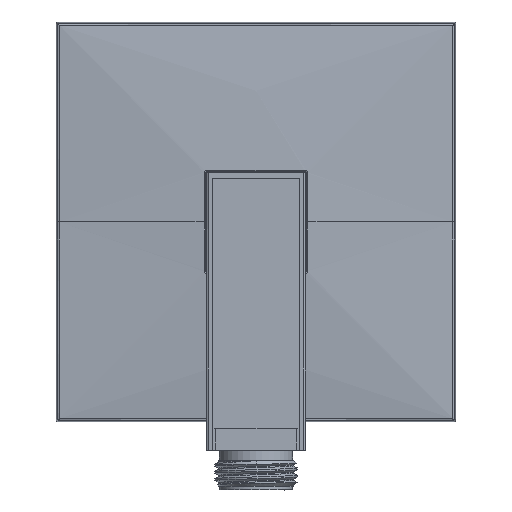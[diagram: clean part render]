
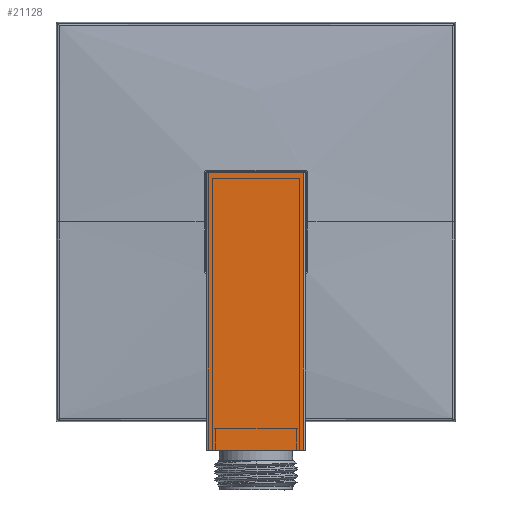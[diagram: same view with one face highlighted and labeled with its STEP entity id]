
A CAD part, front view. The second image highlights one B-rep face of the part: STEP entity #21128.
In plain terms, the highlighted planar face has unit normal (0, -1, 0).
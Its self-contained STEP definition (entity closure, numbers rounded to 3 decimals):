
#126 = VERTEX_POINT ( 'NONE', #6823 ) ;
#1981 = PLANE ( 'NONE',  #32568 ) ;
#2199 = EDGE_CURVE ( 'NONE', #126, #9245, #38977, .T. ) ;
#2382 = CARTESIAN_POINT ( 'NONE',  ( 0., -12.5, -22.5 ) ) ;
#2421 = EDGE_CURVE ( 'NONE', #30199, #9245, #32843, .T. ) ;
#2597 = VECTOR ( 'NONE', #14013, 1000. ) ;
#3465 = VECTOR ( 'NONE', #7867, 1000. ) ;
#3585 = LINE ( 'NONE', #24062, #27683 ) ;
#6823 = CARTESIAN_POINT ( 'NONE',  ( 12., -12.5, -57.5 ) ) ;
#7785 = CARTESIAN_POINT ( 'NONE',  ( 12., -12.5, -22.5 ) ) ;
#7867 = DIRECTION ( 'NONE',  ( 0., 0., 1. ) ) ;
#9245 = VERTEX_POINT ( 'NONE', #12696 ) ;
#12362 = EDGE_LOOP ( 'NONE', ( #26212, #37236, #28924, #36920 ) ) ;
#12696 = CARTESIAN_POINT ( 'NONE',  ( 12., -12.5, 12.5 ) ) ;
#14013 = DIRECTION ( 'NONE',  ( 0., 0., 1. ) ) ;
#14925 = CARTESIAN_POINT ( 'NONE',  ( -12., -12.5, -57.5 ) ) ;
#17792 = EDGE_CURVE ( 'NONE', #126, #37218, #3585, .T. ) ;
#19615 = EDGE_CURVE ( 'NONE', #37218, #30199, #28973, .T. ) ;
#20832 = CARTESIAN_POINT ( 'NONE',  ( 0., -12.5, 12.5 ) ) ;
#21128 = ADVANCED_FACE ( 'NONE', ( #38408 ), #1981, .T. ) ;
#23089 = DIRECTION ( 'NONE',  ( 0., -1., 0. ) ) ;
#23931 = DIRECTION ( 'NONE',  ( -1., 0., 0. ) ) ;
#24062 = CARTESIAN_POINT ( 'NONE',  ( 0., -12.5, -57.5 ) ) ;
#26212 = ORIENTED_EDGE ( 'NONE', *, *, #2199, .T. ) ;
#27683 = VECTOR ( 'NONE', #23931, 1000. ) ;
#28924 = ORIENTED_EDGE ( 'NONE', *, *, #19615, .F. ) ;
#28973 = LINE ( 'NONE', #35065, #3465 ) ;
#30199 = VERTEX_POINT ( 'NONE', #35109 ) ;
#32249 = DIRECTION ( 'NONE',  ( 0., 0., -1. ) ) ;
#32568 = AXIS2_PLACEMENT_3D ( 'NONE', #2382, #23089, #32249 ) ;
#32843 = LINE ( 'NONE', #20832, #36626 ) ;
#33516 = DIRECTION ( 'NONE',  ( 1., 0., 0. ) ) ;
#35065 = CARTESIAN_POINT ( 'NONE',  ( -12., -12.5, -57.5 ) ) ;
#35109 = CARTESIAN_POINT ( 'NONE',  ( -12., -12.5, 12.5 ) ) ;
#36626 = VECTOR ( 'NONE', #33516, 1000. ) ;
#36920 = ORIENTED_EDGE ( 'NONE', *, *, #17792, .F. ) ;
#37218 = VERTEX_POINT ( 'NONE', #14925 ) ;
#37236 = ORIENTED_EDGE ( 'NONE', *, *, #2421, .F. ) ;
#38408 = FACE_OUTER_BOUND ( 'NONE', #12362, .T. ) ;
#38977 = LINE ( 'NONE', #7785, #2597 ) ;
